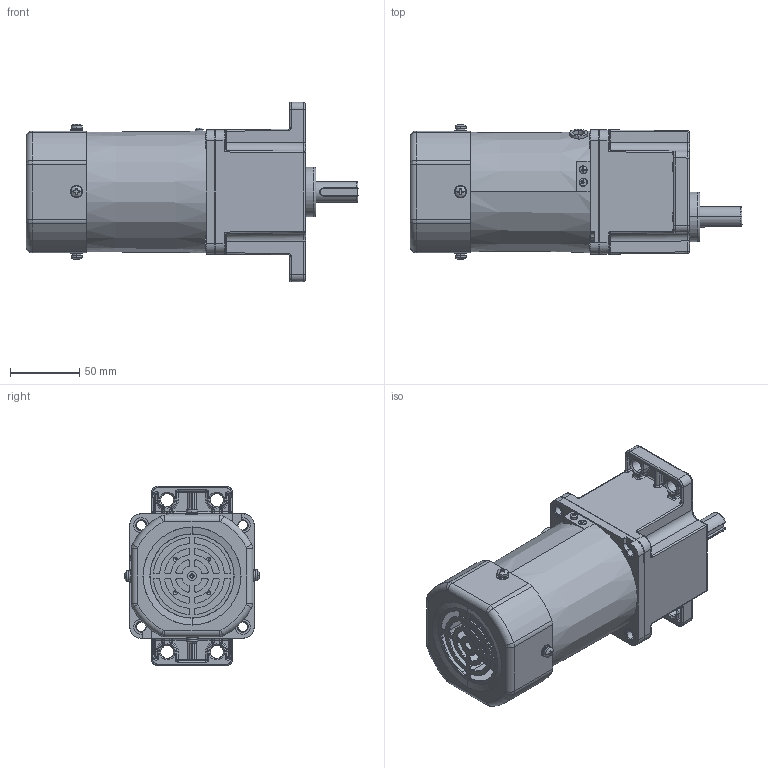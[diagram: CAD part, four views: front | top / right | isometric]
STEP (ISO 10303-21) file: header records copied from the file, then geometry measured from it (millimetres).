
FILE_DESCRIPTION (( 'STEP AP203' ), '1' );
FILE_NAME ('5IK60RGU-CF(5GU3K-200K).STEP', '2023-08-08T05:49:11', ( 'Windows User' ), ( 'P R C' ), 'SwSTEP 2.0', 'SolidWorks 2019', '' );
FILE_SCHEMA (( 'CONFIG_CONTROL_DESIGN' ));
Length unit declared in the file: millimetre
Products named in the file (10): 5IK60RGU-CF(5GU3K-200K); 90TSFZ^5IK60RA-CF_5IK60RGU-CF(5GU3K-200K)(2)_5IK60RGU-CF(5GU3K-200K); 5GU3K-200K^5IK60RGU-CF(5GU3K-200K)(2)_5IK60RGU-CF(5GU3K-200K); 5IK60RA-CF^5IK60RGU-CF(5GU3K-200K)(2)_5IK60RGU-CF(5GU3K-200K); 5IK40A-C^5IK60RA-CF_5IK60RGU-CF(5GU3K-200K)(2)_5IK60RGU-CF(5GU3K-200K); ^_5GU3K-200K_5IK60RGU-CF(5GU3K-200K)(2)_5IK60RGU-CF(5GU3K-200K); M3^5IK40A-C_5IK60RA-CF_5IK60RGU-CF(5GU3K-200K)(2)_5IK60RGU-CF(5GU3K-200K); 5IK60RGU-CF(5GU3K-200K)(2)^5IK60RGU-CF(5GU3K-200K); 5IK40A-C.stp^5IK40A-C_5IK60RA-CF_5IK60RGU-CF(5GU3K-200K)(2)_5IK60RGU-CF(5GU3K-200K); ^5GU3K-200K_5IK60RGU-CF(5GU3K-200K)(2)_5IK60RGU-CF(5GU3K-200K)
Assembly tree (9 placements, depth 5):
  5IK60RGU-CF(5GU3K-200K)
    5IK60RGU-CF(5GU3K-200K)(2)^5IK60RGU-CF(5GU3K-200K)
      5IK60RA-CF^5IK60RGU-CF(5GU3K-200K)(2)_5IK60RGU-CF(5GU3K-200K)
        5IK40A-C^5IK60RA-CF_5IK60RGU-CF(5GU3K-200K)(2)_5IK60RGU-CF(5GU3K-200K)
          5IK40A-C.stp^5IK40A-C_5IK60RA-CF_5IK60RGU-CF(5GU3K-200K)(2)_5IK60RGU-CF(5GU3K-200K)
          M3^5IK40A-C_5IK60RA-CF_5IK60RGU-CF(5GU3K-200K)(2)_5IK60RGU-CF(5GU3K-200K)
        90TSFZ^5IK60RA-CF_5IK60RGU-CF(5GU3K-200K)(2)_5IK60RGU-CF(5GU3K-200K)
      5GU3K-200K^5IK60RGU-CF(5GU3K-200K)(2)_5IK60RGU-CF(5GU3K-200K)
        ^5GU3K-200K_5IK60RGU-CF(5GU3K-200K)(2)_5IK60RGU-CF(5GU3K-200K)
          ^_5GU3K-200K_5IK60RGU-CF(5GU3K-200K)(2)_5IK60RGU-CF(5GU3K-200K)
Bounding box: 240.5 x 98.11 x 129.97 mm (x, y, z)
Volume: 1161917.8 mm3; surface area: 137158.1 mm2
Topology: 17 solids, 17 shells, 1128 faces, 2800 edges, 1677 vertices
Faces by surface type: cylinder 454, plane 280, cone 160, bspline 115, torus 67, sphere 52
Entity records: 41644 total; most frequent: CARTESIAN_POINT 14392, DIRECTION 5626, ORIENTED_EDGE 5462, EDGE_CURVE 2731, AXIS2_PLACEMENT_3D 2265, VERTEX_POINT 1676, CIRCLE 1235, EDGE_LOOP 1233
